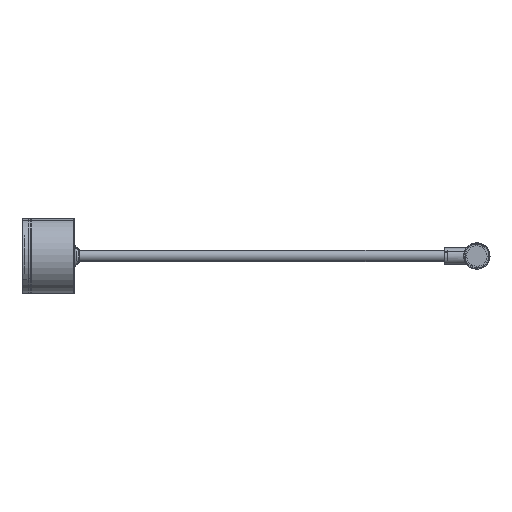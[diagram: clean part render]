
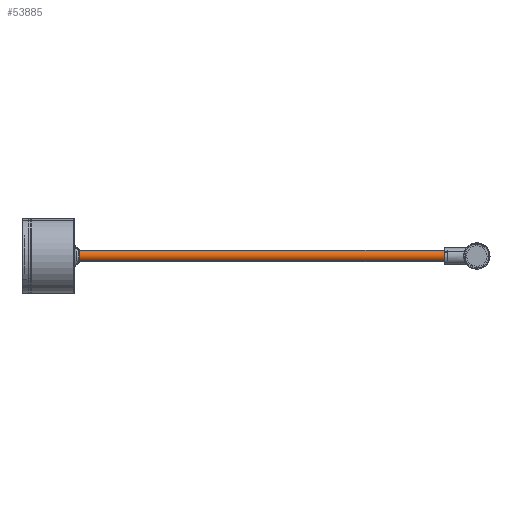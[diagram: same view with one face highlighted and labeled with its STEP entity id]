
A CAD part, front view. The second image highlights one B-rep face of the part: STEP entity #53885.
In plain terms, the highlighted cylindrical face has radius 9 mm (diameter 18 mm), a partial arc.
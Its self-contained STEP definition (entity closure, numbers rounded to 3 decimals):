
#1383 = VERTEX_POINT ( 'NONE', #103830 ) ;
#28677 = CIRCLE ( 'NONE', #48963, 9. ) ;
#28725 = VERTEX_POINT ( 'NONE', #247126 ) ;
#36688 = CARTESIAN_POINT ( 'NONE',  ( -658.162, 220.971, 34.522 ) ) ;
#43650 = EDGE_CURVE ( 'NONE', #193825, #1383, #240145, .T. ) ;
#48963 = AXIS2_PLACEMENT_3D ( 'NONE', #187160, #207820, #84555 ) ;
#49473 = VECTOR ( 'NONE', #62136, 1000. ) ;
#51504 = DIRECTION ( 'NONE',  ( 1., 0., 0. ) ) ;
#53885 = ADVANCED_FACE ( 'NONE', ( #111638 ), #262901, .T. ) ;
#60391 = DIRECTION ( 'NONE',  ( 1., 0., 0. ) ) ;
#62136 = DIRECTION ( 'NONE',  ( 1., 0., 0. ) ) ;
#84555 = DIRECTION ( 'NONE',  ( 0., 0.448, 0.894 ) ) ;
#99416 = AXIS2_PLACEMENT_3D ( 'NONE', #266328, #60391, #100001 ) ;
#100001 = DIRECTION ( 'NONE',  ( 0., 0.448, 0.894 ) ) ;
#102330 = ORIENTED_EDGE ( 'NONE', *, *, #238345, .F. ) ;
#103830 = CARTESIAN_POINT ( 'NONE',  ( -98.162, 212.907, 18.429 ) ) ;
#105440 = AXIS2_PLACEMENT_3D ( 'NONE', #183995, #165909, #249549 ) ;
#107404 = ORIENTED_EDGE ( 'NONE', *, *, #148554, .T. ) ;
#111638 = FACE_OUTER_BOUND ( 'NONE', #184502, .T. ) ;
#148554 = EDGE_CURVE ( 'NONE', #28725, #1383, #226578, .T. ) ;
#165909 = DIRECTION ( 'NONE',  ( 1., 0., 0. ) ) ;
#183995 = CARTESIAN_POINT ( 'NONE',  ( -658.162, 216.939, 26.475 ) ) ;
#184051 = ORIENTED_EDGE ( 'NONE', *, *, #43650, .F. ) ;
#184502 = EDGE_LOOP ( 'NONE', ( #238521, #107404, #184051, #102330 ) ) ;
#186308 = CARTESIAN_POINT ( 'NONE',  ( -658.162, 212.907, 18.429 ) ) ;
#187160 = CARTESIAN_POINT ( 'NONE',  ( -658.162, 216.939, 26.475 ) ) ;
#191930 = EDGE_CURVE ( 'NONE', #208943, #28725, #28677, .T. ) ;
#193737 = CARTESIAN_POINT ( 'NONE',  ( -658.162, 220.971, 34.522 ) ) ;
#193825 = VERTEX_POINT ( 'NONE', #265898 ) ;
#206196 = LINE ( 'NONE', #193737, #257684 ) ;
#207820 = DIRECTION ( 'NONE',  ( 1., 0., 0. ) ) ;
#208943 = VERTEX_POINT ( 'NONE', #36688 ) ;
#226578 = LINE ( 'NONE', #186308, #49473 ) ;
#238345 = EDGE_CURVE ( 'NONE', #208943, #193825, #206196, .T. ) ;
#238521 = ORIENTED_EDGE ( 'NONE', *, *, #191930, .T. ) ;
#240145 = CIRCLE ( 'NONE', #99416, 9. ) ;
#247126 = CARTESIAN_POINT ( 'NONE',  ( -658.162, 212.907, 18.429 ) ) ;
#249549 = DIRECTION ( 'NONE',  ( 0., 0.448, 0.894 ) ) ;
#257684 = VECTOR ( 'NONE', #51504, 1000. ) ;
#262901 = CYLINDRICAL_SURFACE ( 'NONE', #105440, 9. ) ;
#265898 = CARTESIAN_POINT ( 'NONE',  ( -98.162, 220.971, 34.522 ) ) ;
#266328 = CARTESIAN_POINT ( 'NONE',  ( -98.162, 216.939, 26.475 ) ) ;
